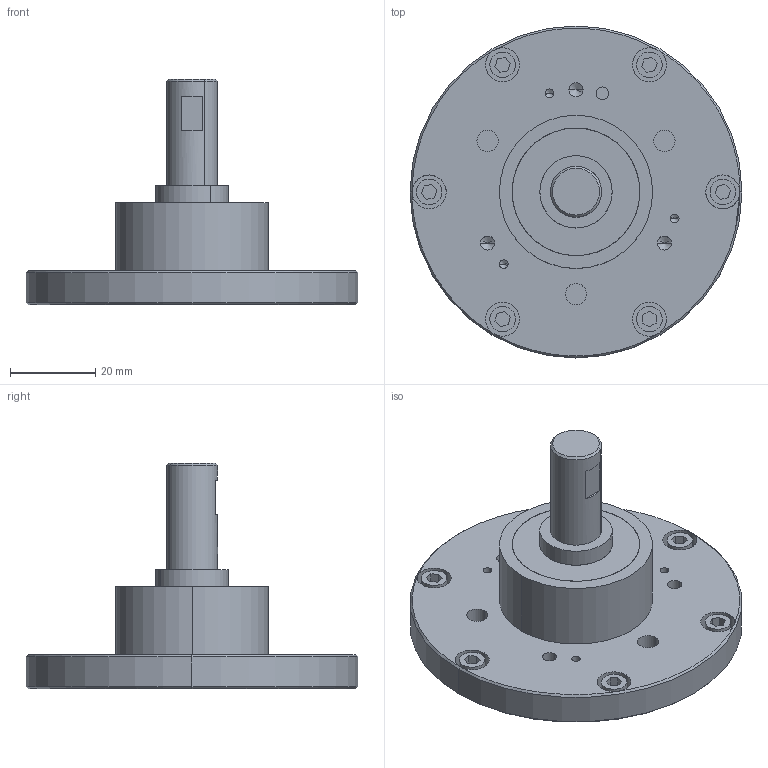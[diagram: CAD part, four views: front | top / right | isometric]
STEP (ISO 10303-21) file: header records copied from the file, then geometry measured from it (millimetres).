
FILE_DESCRIPTION (( 'STEP AP203' ), '1' );
FILE_NAME ('OCA-F12S-C7Y-N.STEP', '2013-05-16T12:04:56', ( '' ), ( '' ), 'SwSTEP 2.0', 'SolidWorks 2006104', '' );
FILE_SCHEMA (( 'CONFIG_CONTROL_DESIGN' ));
Length unit declared in the file: millimetre
Products named in the file (1): OCA-F12S-C7Y-N
Bounding box: 78 x 78 x 53 mm (x, y, z)
Volume: 49790.2 mm3; surface area: 21695.6 mm2
Topology: 9 solids, 9 shells, 179 faces, 386 edges, 242 vertices
Faces by surface type: plane 87, cylinder 74, cone 18
Entity records: 4863 total; most frequent: DIRECTION 900, CARTESIAN_POINT 796, ORIENTED_EDGE 748, EDGE_CURVE 374, AXIS2_PLACEMENT_3D 346, VERTEX_POINT 242, EDGE_LOOP 210, VECTOR 208
